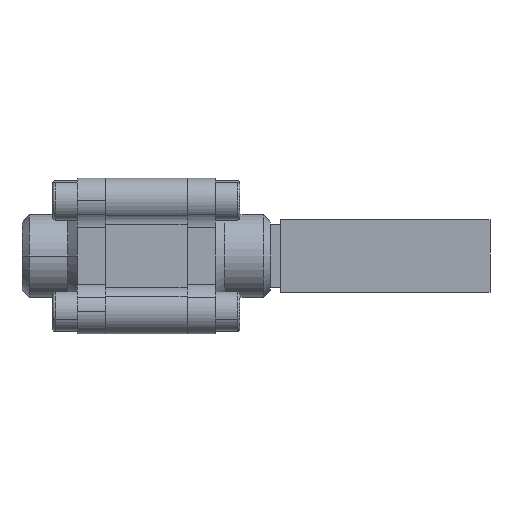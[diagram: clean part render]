
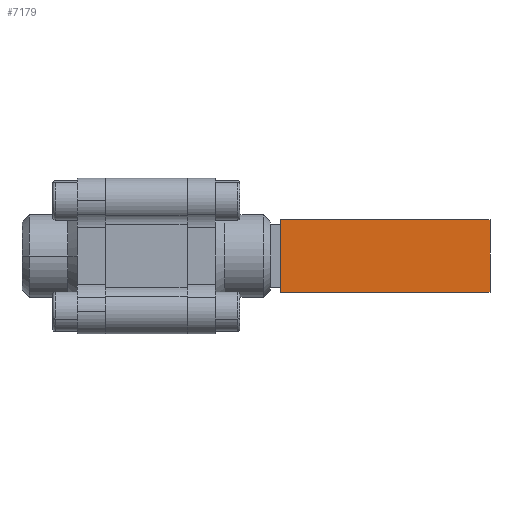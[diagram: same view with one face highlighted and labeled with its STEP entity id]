
A CAD part, front view. The second image highlights one B-rep face of the part: STEP entity #7179.
In plain terms, the highlighted planar face has unit normal (0, -1, 0).
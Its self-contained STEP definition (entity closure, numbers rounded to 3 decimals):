
#643 = EDGE_CURVE ( 'NONE', #5029, #5026, #6078, .T. ) ;
#645 = EDGE_CURVE ( 'NONE', #5031, #5029, #6077, .T. ) ;
#648 = EDGE_CURVE ( 'NONE', #5033, #5031, #6064, .T. ) ;
#652 = EDGE_CURVE ( 'NONE', #5026, #5033, #6088, .T. ) ;
#2672 = FACE_OUTER_BOUND ( 'NONE', #6834, .T. ) ;
#3473 = CARTESIAN_POINT ( 'NONE',  ( 139.749, 23.749, -14.7 ) ) ;
#3481 = PLANE ( 'NONE',  #7438 ) ;
#3493 = DIRECTION ( 'NONE',  ( 0., -1., 0. ) ) ;
#3494 = DIRECTION ( 'NONE',  ( 1., 0., 0. ) ) ;
#4129 = ORIENTED_EDGE ( 'NONE', *, *, #652, .F. ) ;
#4130 = ORIENTED_EDGE ( 'NONE', *, *, #643, .F. ) ;
#4131 = ORIENTED_EDGE ( 'NONE', *, *, #645, .F. ) ;
#4132 = ORIENTED_EDGE ( 'NONE', *, *, #648, .F. ) ;
#4706 = CARTESIAN_POINT ( 'NONE',  ( 54.749, 23.749, 14.7 ) ) ;
#4710 = CARTESIAN_POINT ( 'NONE',  ( 54.749, 23.749, 14.7 ) ) ;
#4711 = DIRECTION ( 'NONE',  ( 1., 0., 0. ) ) ;
#4714 = CARTESIAN_POINT ( 'NONE',  ( 54.749, 23.749, -14.7 ) ) ;
#4715 = DIRECTION ( 'NONE',  ( 0., 0., 1. ) ) ;
#4721 = DIRECTION ( 'NONE',  ( -1., 0., 0. ) ) ;
#4724 = CARTESIAN_POINT ( 'NONE',  ( 139.749, 23.749, 14.7 ) ) ;
#4729 = DIRECTION ( 'NONE',  ( 0., 0., -1. ) ) ;
#5026 = VERTEX_POINT ( 'NONE', #5738 ) ;
#5029 = VERTEX_POINT ( 'NONE', #5741 ) ;
#5031 = VERTEX_POINT ( 'NONE', #5743 ) ;
#5033 = VERTEX_POINT ( 'NONE', #5745 ) ;
#5738 = CARTESIAN_POINT ( 'NONE',  ( 139.749, 23.749, 14.7 ) ) ;
#5741 = CARTESIAN_POINT ( 'NONE',  ( 54.749, 23.749, 14.7 ) ) ;
#5743 = CARTESIAN_POINT ( 'NONE',  ( 54.749, 23.749, -14.7 ) ) ;
#5745 = CARTESIAN_POINT ( 'NONE',  ( 139.749, 23.749, -14.7 ) ) ;
#6064 = LINE ( 'NONE', #4714, #6093 ) ;
#6077 = LINE ( 'NONE', #4710, #6087 ) ;
#6078 = LINE ( 'NONE', #4706, #6083 ) ;
#6083 = VECTOR ( 'NONE', #4711, 1000. ) ;
#6087 = VECTOR ( 'NONE', #4715, 1000. ) ;
#6088 = LINE ( 'NONE', #4724, #6101 ) ;
#6093 = VECTOR ( 'NONE', #4721, 1000. ) ;
#6101 = VECTOR ( 'NONE', #4729, 1000. ) ;
#6834 = EDGE_LOOP ( 'NONE', ( #4129, #4130, #4131, #4132 ) ) ;
#7179 = ADVANCED_FACE ( 'NONE', ( #2672 ), #3481, .T. ) ;
#7438 = AXIS2_PLACEMENT_3D ( 'NONE', #3473, #3493, #3494 ) ;
